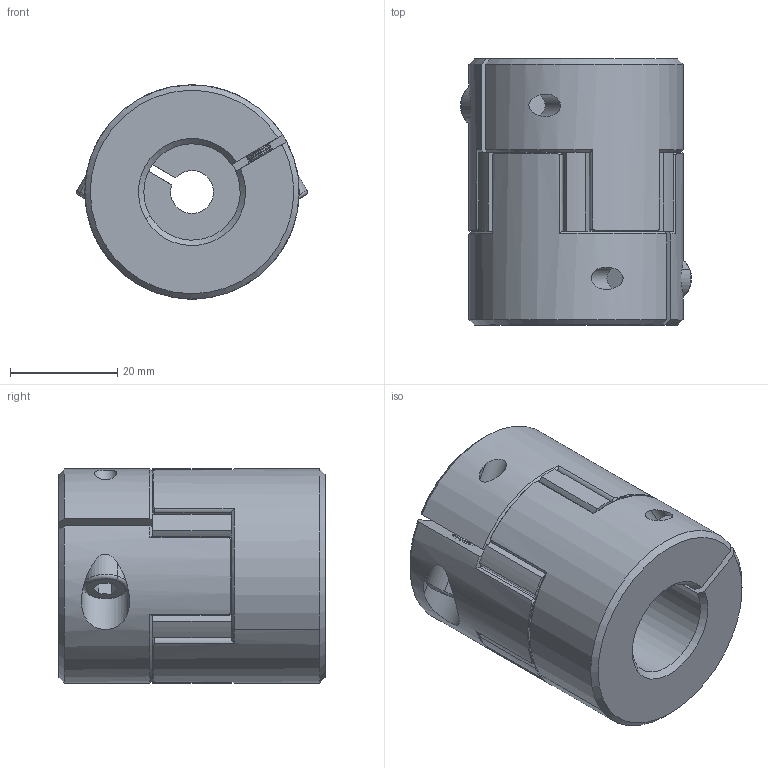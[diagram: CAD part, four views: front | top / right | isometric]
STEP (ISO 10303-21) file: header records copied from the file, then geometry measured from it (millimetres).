
FILE_DESCRIPTION (( 'STEP AP203' ), '1' );
FILE_NAME ('LF-B-D40L50-8-18.STEP', '2021-10-25T02:36:36', ( '' ), ( '' ), 'SwSTEP 2.0', 'SolidWorks 2018', '' );
FILE_SCHEMA (( 'CONFIG_CONTROL_DESIGN' ));
Length unit declared in the file: millimetre
Products named in the file (1): LF-B-D40L50-8-18
Bounding box: 43.11 x 49.7 x 40 mm (x, y, z)
Volume: 51576 mm3; surface area: 14584.4 mm2
Topology: 1 solids, 7 shells, 471 faces, 1117 edges, 662 vertices
Faces by surface type: cone 170, cylinder 169, plane 128, torus 4
Entity records: 13972 total; most frequent: CARTESIAN_POINT 2895, DIRECTION 2509, ORIENTED_EDGE 2226, EDGE_CURVE 1113, AXIS2_PLACEMENT_3D 1040, VERTEX_POINT 662, CIRCLE 568, EDGE_LOOP 487
